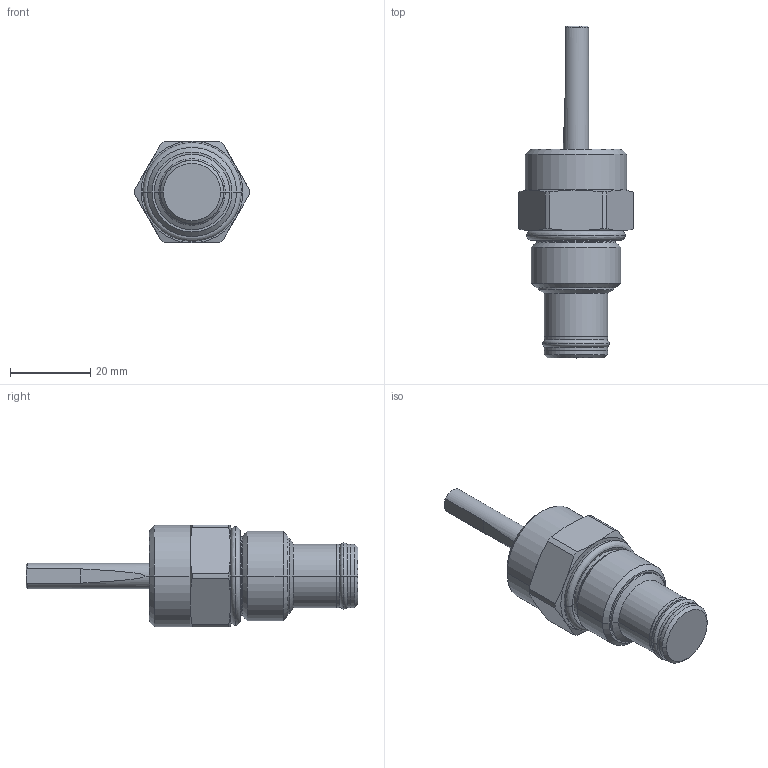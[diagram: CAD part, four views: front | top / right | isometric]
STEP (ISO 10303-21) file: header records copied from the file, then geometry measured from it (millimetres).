
FILE_DESCRIPTION((''),'2;1');
FILE_NAME('5312100_SW0002','2009-02-04T',('jcs'),(''),'PRO/ENGINEER BY PARAMETRIC TECHNOLOGY CORPORATION, 2008010','PRO/ENGINEER BY PARAMETRIC TECHNOLOGY CORPORATION, 2008010','');
FILE_SCHEMA(('CONFIG_CONTROL_DESIGN'));
Length unit declared in the file: inch
Products named in the file (1): 5312100_SW0002
Bounding box: 28.57 x 82.78 x 25.4 mm (x, y, z)
Volume: 20469.4 mm3; surface area: 6567.9 mm2
Topology: 3 solids, 3 shells, 113 faces, 249 edges, 145 vertices
Faces by surface type: cylinder 33, cone 27, plane 25, revolution 16, torus 12
Entity records: 3837 total; most frequent: CARTESIAN_POINT 1298, DIRECTION 546, ORIENTED_EDGE 494, EDGE_CURVE 247, AXIS2_PLACEMENT_3D 224, VERTEX_POINT 145, CIRCLE 127, EDGE_LOOP 122
